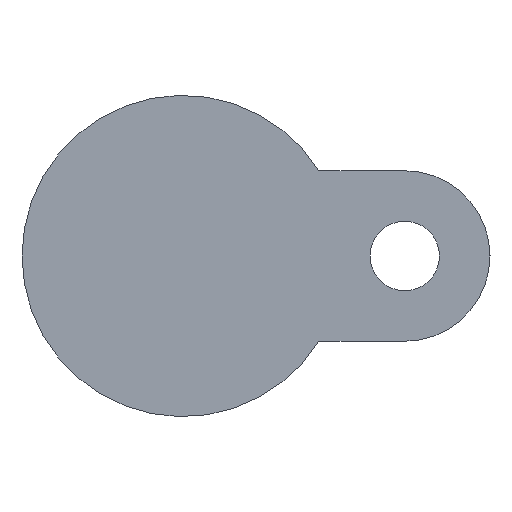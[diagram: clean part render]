
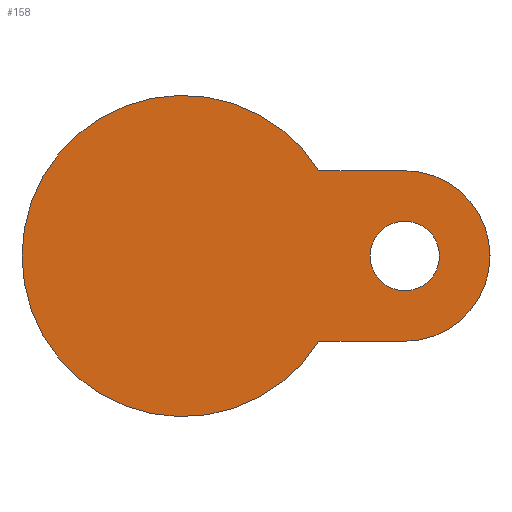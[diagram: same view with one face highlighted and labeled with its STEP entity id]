
A CAD part, front view. The second image highlights one B-rep face of the part: STEP entity #158.
In plain terms, the highlighted planar face has unit normal (0, -1, 0).
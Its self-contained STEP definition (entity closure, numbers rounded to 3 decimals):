
#2 = VERTEX_POINT ( 'NONE', #295 ) ;
#29 = ORIENTED_EDGE ( 'NONE', *, *, #1035, .F. ) ;
#77 = VERTEX_POINT ( 'NONE', #1457 ) ;
#105 = EDGE_CURVE ( 'NONE', #77, #1005, #559, .T. ) ;
#158 = ADVANCED_FACE ( 'NONE', ( #884, #1349 ), #314, .T. ) ;
#191 = DIRECTION ( 'NONE',  ( 1., 0., 0. ) ) ;
#199 = DIRECTION ( 'NONE',  ( -1., 0., 0. ) ) ;
#233 = ORIENTED_EDGE ( 'NONE', *, *, #241, .F. ) ;
#241 = EDGE_CURVE ( 'NONE', #2, #987, #1137, .T. ) ;
#274 = ORIENTED_EDGE ( 'NONE', *, *, #301, .T. ) ;
#295 = CARTESIAN_POINT ( 'NONE',  ( 56., -23., -21.5 ) ) ;
#301 = EDGE_CURVE ( 'NONE', #77, #987, #1132, .T. ) ;
#314 = PLANE ( 'NONE',  #1180 ) ;
#324 = CIRCLE ( 'NONE', #514, 8.75 ) ;
#380 = VERTEX_POINT ( 'NONE', #484 ) ;
#388 = AXIS2_PLACEMENT_3D ( 'NONE', #644, #759, #191 ) ;
#421 = DIRECTION ( 'NONE',  ( 0., 1., 0. ) ) ;
#484 = CARTESIAN_POINT ( 'NONE',  ( 64.75, -23., 0. ) ) ;
#514 = AXIS2_PLACEMENT_3D ( 'NONE', #1233, #421, #199 ) ;
#532 = ORIENTED_EDGE ( 'NONE', *, *, #959, .T. ) ;
#559 = LINE ( 'NONE', #783, #862 ) ;
#628 = EDGE_LOOP ( 'NONE', ( #274, #233, #29, #695 ) ) ;
#644 = CARTESIAN_POINT ( 'NONE',  ( 56., -23., 0. ) ) ;
#695 = ORIENTED_EDGE ( 'NONE', *, *, #105, .F. ) ;
#704 = VECTOR ( 'NONE', #790, 1000. ) ;
#712 = CARTESIAN_POINT ( 'NONE',  ( 34.322, -23., -21.5 ) ) ;
#759 = DIRECTION ( 'NONE',  ( 0., 1., 0. ) ) ;
#776 = CARTESIAN_POINT ( 'NONE',  ( 40.5, -23., 0. ) ) ;
#783 = CARTESIAN_POINT ( 'NONE',  ( 30.5, -23., 21.5 ) ) ;
#790 = DIRECTION ( 'NONE',  ( -1., 0., 0. ) ) ;
#797 = CIRCLE ( 'NONE', #388, 21.5 ) ;
#806 = CARTESIAN_POINT ( 'NONE',  ( 30.5, -23., -21.5 ) ) ;
#821 = DIRECTION ( 'NONE',  ( -1., 0., 0. ) ) ;
#835 = EDGE_CURVE ( 'NONE', #870, #380, #324, .T. ) ;
#844 = CARTESIAN_POINT ( 'NONE',  ( 56., -23., 0. ) ) ;
#862 = VECTOR ( 'NONE', #878, 1000. ) ;
#870 = VERTEX_POINT ( 'NONE', #981 ) ;
#878 = DIRECTION ( 'NONE',  ( 1., 0., 0. ) ) ;
#884 = FACE_BOUND ( 'NONE', #1289, .T. ) ;
#959 = EDGE_CURVE ( 'NONE', #380, #870, #1359, .T. ) ;
#981 = CARTESIAN_POINT ( 'NONE',  ( 47.25, -23., 0. ) ) ;
#987 = VERTEX_POINT ( 'NONE', #712 ) ;
#1005 = VERTEX_POINT ( 'NONE', #1225 ) ;
#1013 = AXIS2_PLACEMENT_3D ( 'NONE', #844, #1073, #821 ) ;
#1027 = DIRECTION ( 'NONE',  ( 0., -1., 0. ) ) ;
#1035 = EDGE_CURVE ( 'NONE', #1005, #2, #797, .T. ) ;
#1073 = DIRECTION ( 'NONE',  ( 0., 1., 0. ) ) ;
#1132 = CIRCLE ( 'NONE', #1348, 40.5 ) ;
#1137 = LINE ( 'NONE', #806, #704 ) ;
#1180 = AXIS2_PLACEMENT_3D ( 'NONE', #776, #1268, #1286 ) ;
#1225 = CARTESIAN_POINT ( 'NONE',  ( 56., -23., 21.5 ) ) ;
#1233 = CARTESIAN_POINT ( 'NONE',  ( 56., -23., 0. ) ) ;
#1267 = CARTESIAN_POINT ( 'NONE',  ( 0., -23., 0. ) ) ;
#1268 = DIRECTION ( 'NONE',  ( 0., -1., 0. ) ) ;
#1286 = DIRECTION ( 'NONE',  ( 1., 0., 0. ) ) ;
#1287 = ORIENTED_EDGE ( 'NONE', *, *, #835, .T. ) ;
#1289 = EDGE_LOOP ( 'NONE', ( #1287, #532 ) ) ;
#1348 = AXIS2_PLACEMENT_3D ( 'NONE', #1267, #1027, #1358 ) ;
#1349 = FACE_OUTER_BOUND ( 'NONE', #628, .T. ) ;
#1358 = DIRECTION ( 'NONE',  ( 1., 0., 0. ) ) ;
#1359 = CIRCLE ( 'NONE', #1013, 8.75 ) ;
#1457 = CARTESIAN_POINT ( 'NONE',  ( 34.322, -23., 21.5 ) ) ;
